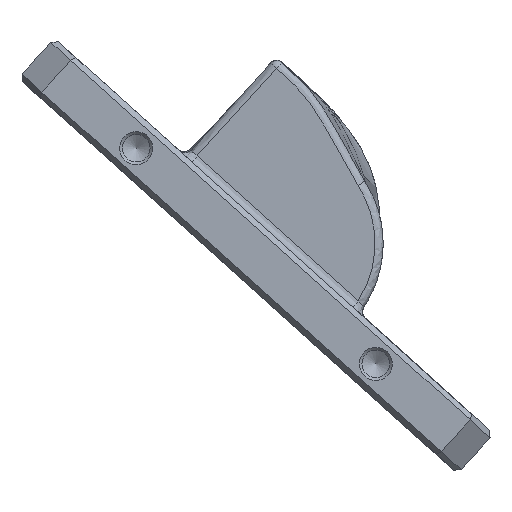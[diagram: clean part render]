
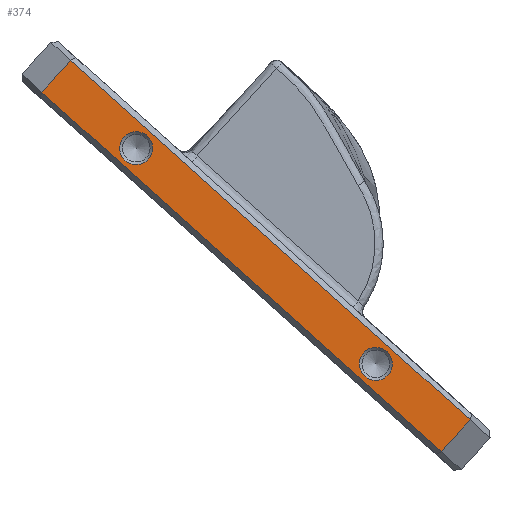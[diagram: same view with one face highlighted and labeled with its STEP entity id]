
A CAD part, left-side view. The second image highlights one B-rep face of the part: STEP entity #374.
In plain terms, the highlighted planar face has unit normal (-1, 0, 0).
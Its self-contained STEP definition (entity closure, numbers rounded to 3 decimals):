
#74=PLANE('',#1716);
#99=CIRCLE('',#1714,6.15);
#100=CIRCLE('',#1715,6.15);
#147=FACE_BOUND('',#633,.T.);
#148=FACE_BOUND('',#634,.T.);
#149=FACE_BOUND('',#635,.T.);
#215=LINE('',#11014,#278);
#216=LINE('',#11017,#279);
#217=LINE('',#11019,#280);
#218=LINE('',#11021,#281);
#278=VECTOR('',#1837,1.);
#279=VECTOR('',#1838,1.);
#280=VECTOR('',#1839,1.);
#281=VECTOR('',#1840,1.);
#374=ADVANCED_FACE('',(#147,#148,#149),#74,.T.);
#633=EDGE_LOOP('',(#928));
#634=EDGE_LOOP('',(#929));
#635=EDGE_LOOP('',(#930,#931,#932,#933));
#928=ORIENTED_EDGE('',*,*,#1484,.T.);
#929=ORIENTED_EDGE('',*,*,#1485,.T.);
#930=ORIENTED_EDGE('',*,*,#1486,.T.);
#931=ORIENTED_EDGE('',*,*,#1487,.T.);
#932=ORIENTED_EDGE('',*,*,#1488,.T.);
#933=ORIENTED_EDGE('',*,*,#1489,.T.);
#1304=VERTEX_POINT('',#11011);
#1305=VERTEX_POINT('',#11013);
#1306=VERTEX_POINT('',#11015);
#1307=VERTEX_POINT('',#11016);
#1308=VERTEX_POINT('',#11018);
#1309=VERTEX_POINT('',#11020);
#1484=EDGE_CURVE('',#1304,#1304,#99,.T.);
#1485=EDGE_CURVE('',#1305,#1305,#100,.T.);
#1486=EDGE_CURVE('',#1306,#1307,#215,.T.);
#1487=EDGE_CURVE('',#1307,#1308,#216,.T.);
#1488=EDGE_CURVE('',#1308,#1309,#217,.T.);
#1489=EDGE_CURVE('',#1309,#1306,#218,.T.);
#1714=AXIS2_PLACEMENT_3D('',#11010,#1833,#1834);
#1715=AXIS2_PLACEMENT_3D('',#11012,#1835,#1836);
#1716=AXIS2_PLACEMENT_3D('',#11022,#1841,#1842);
#1833=DIRECTION('',(1.,0.,0.));
#1834=DIRECTION('',(0.,0.,1.));
#1835=DIRECTION('',(1.,0.,0.));
#1836=DIRECTION('',(0.,0.,1.));
#1837=DIRECTION('',(0.,0.669,-0.743));
#1838=DIRECTION('',(0.,-0.743,-0.669));
#1839=DIRECTION('',(0.,-0.669,0.743));
#1840=DIRECTION('',(0.,0.743,0.669));
#1841=DIRECTION('',(-1.,0.,0.));
#1842=DIRECTION('',(0.,0.,1.));
#11010=CARTESIAN_POINT('',(6326.8,268.573,-392.144));
#11011=CARTESIAN_POINT('',(6326.8,268.573,-385.994));
#11012=CARTESIAN_POINT('',(6326.8,179.396,-472.44));
#11013=CARTESIAN_POINT('',(6326.8,179.396,-466.29));
#11014=CARTESIAN_POINT('',(6326.8,-15.276,-17.119));
#11015=CARTESIAN_POINT('',(6326.8,292.946,-359.434));
#11016=CARTESIAN_POINT('',(6326.8,303.652,-371.324));
#11017=CARTESIAN_POINT('',(6326.8,320.601,-356.063));
#11018=CARTESIAN_POINT('',(6326.8,155.023,-505.15));
#11019=CARTESIAN_POINT('',(6326.8,-163.905,-150.945));
#11020=CARTESIAN_POINT('',(6326.8,144.317,-493.26));
#11021=CARTESIAN_POINT('',(6326.8,309.895,-344.173));
#11022=CARTESIAN_POINT('',(6326.8,1.673,-1.858));
